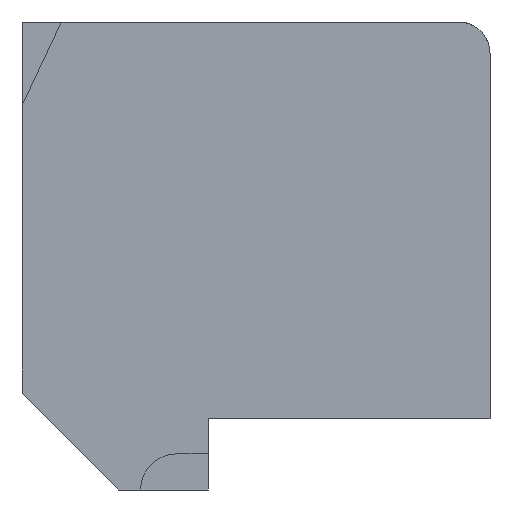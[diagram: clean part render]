
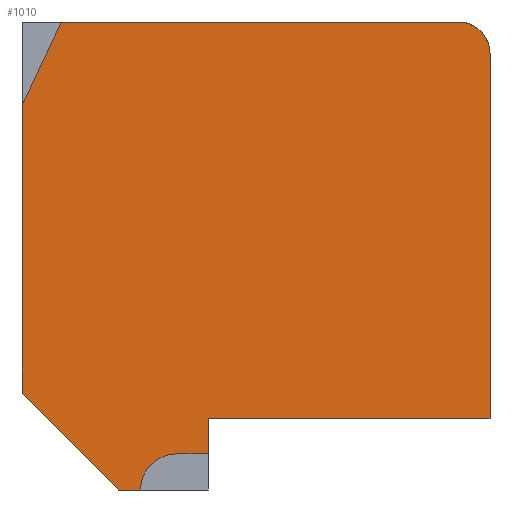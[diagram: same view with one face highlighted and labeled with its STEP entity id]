
A CAD part, front view. The second image highlights one B-rep face of the part: STEP entity #1010.
In plain terms, the highlighted planar face has unit normal (0, -1, 0).
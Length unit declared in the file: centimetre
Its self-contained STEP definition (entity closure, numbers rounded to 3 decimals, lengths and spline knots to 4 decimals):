
#2 = VECTOR ( 'NONE', #517, 100. ) ;
#34 = DIRECTION ( 'NONE',  ( -1., 0., 0. ) ) ;
#46 = VECTOR ( 'NONE', #926, 100. ) ;
#102 = ORIENTED_EDGE ( 'NONE', *, *, #1056, .F. ) ;
#107 = CARTESIAN_POINT ( 'NONE',  ( 0., 0., 1000. ) ) ;
#117 = VERTEX_POINT ( 'NONE', #146 ) ;
#120 = EDGE_CURVE ( 'NONE', #117, #290, #336, .T. ) ;
#121 = DIRECTION ( 'NONE',  ( 1., 0., 0. ) ) ;
#129 = CARTESIAN_POINT ( 'NONE',  ( 0., 0., 207.1566 ) ) ;
#146 = CARTESIAN_POINT ( 'NONE',  ( 1000., 0., 932.5069 ) ) ;
#147 = VERTEX_POINT ( 'NONE', #157 ) ;
#157 = CARTESIAN_POINT ( 'NONE',  ( 0., 0., 821.7049 ) ) ;
#166 = AXIS2_PLACEMENT_3D ( 'NONE', #349, #763, #459 ) ;
#176 = DIRECTION ( 'NONE',  ( 0., 0., 1. ) ) ;
#194 = VECTOR ( 'NONE', #121, 100. ) ;
#202 = DIRECTION ( 'NONE',  ( 1., 0., 0. ) ) ;
#208 = LINE ( 'NONE', #715, #194 ) ;
#217 = ORIENTED_EDGE ( 'NONE', *, *, #528, .F. ) ;
#249 = ORIENTED_EDGE ( 'NONE', *, *, #1022, .F. ) ;
#255 = PLANE ( 'NONE',  #1072 ) ;
#261 = ORIENTED_EDGE ( 'NONE', *, *, #292, .T. ) ;
#290 = VERTEX_POINT ( 'NONE', #291 ) ;
#291 = CARTESIAN_POINT ( 'NONE',  ( 932.5069, 0., 1000. ) ) ;
#292 = EDGE_CURVE ( 'NONE', #525, #1110, #793, .T. ) ;
#320 = VECTOR ( 'NONE', #34, 100. ) ;
#324 = CARTESIAN_POINT ( 'NONE',  ( 398.157, 0., 152.4031 ) ) ;
#336 = CIRCLE ( 'NONE', #166, 67.4931 ) ;
#349 = CARTESIAN_POINT ( 'NONE',  ( 932.5069, 0., 932.5069 ) ) ;
#351 = EDGE_CURVE ( 'NONE', #1064, #904, #471, .T. ) ;
#353 = LINE ( 'NONE', #657, #1234 ) ;
#415 = ORIENTED_EDGE ( 'NONE', *, *, #732, .F. ) ;
#448 = AXIS2_PLACEMENT_3D ( 'NONE', #1004, #603, #516 ) ;
#456 = EDGE_CURVE ( 'NONE', #147, #777, #714, .T. ) ;
#459 = DIRECTION ( 'NONE',  ( 0., 0., 1. ) ) ;
#471 = LINE ( 'NONE', #594, #829 ) ;
#475 = CARTESIAN_POINT ( 'NONE',  ( 330.6367, 0., 77.2732 ) ) ;
#476 = EDGE_CURVE ( 'NONE', #525, #840, #631, .T. ) ;
#487 = DIRECTION ( 'NONE',  ( 0., 0., -1. ) ) ;
#514 = EDGE_CURVE ( 'NONE', #840, #1023, #832, .T. ) ;
#516 = DIRECTION ( 'NONE',  ( 0., 0., -1. ) ) ;
#517 = DIRECTION ( 'NONE',  ( 0., 0., -1. ) ) ;
#525 = VERTEX_POINT ( 'NONE', #818 ) ;
#528 = EDGE_CURVE ( 'NONE', #1297, #290, #208, .T. ) ;
#572 = CARTESIAN_POINT ( 'NONE',  ( 0., 0., 1000. ) ) ;
#575 = DIRECTION ( 'NONE',  ( 1., 0., 0. ) ) ;
#576 = ORIENTED_EDGE ( 'NONE', *, *, #456, .T. ) ;
#594 = CARTESIAN_POINT ( 'NONE',  ( 0., 0., 0. ) ) ;
#603 = DIRECTION ( 'NONE',  ( 0., -1., 0. ) ) ;
#627 = LINE ( 'NONE', #129, #1155 ) ;
#631 = LINE ( 'NONE', #324, #46 ) ;
#657 = CARTESIAN_POINT ( 'NONE',  ( 0., 0., 821.7049 ) ) ;
#672 = CARTESIAN_POINT ( 'NONE',  ( 253.3635, 0., 0. ) ) ;
#687 = CARTESIAN_POINT ( 'NONE',  ( 207.1566, 0., 0. ) ) ;
#714 = LINE ( 'NONE', #107, #2 ) ;
#715 = CARTESIAN_POINT ( 'NONE',  ( 0., 0., 1000. ) ) ;
#717 = ORIENTED_EDGE ( 'NONE', *, *, #351, .T. ) ;
#732 = EDGE_CURVE ( 'NONE', #1023, #904, #1019, .T. ) ;
#763 = DIRECTION ( 'NONE',  ( 0., -1., 0. ) ) ;
#777 = VERTEX_POINT ( 'NONE', #1240 ) ;
#793 = LINE ( 'NONE', #1000, #1014 ) ;
#796 = CARTESIAN_POINT ( 'NONE',  ( 1000., 0., 152.4031 ) ) ;
#818 = CARTESIAN_POINT ( 'NONE',  ( 398.157, 0., 152.4031 ) ) ;
#829 = VECTOR ( 'NONE', #202, 100. ) ;
#832 = LINE ( 'NONE', #1213, #320 ) ;
#840 = VERTEX_POINT ( 'NONE', #1040 ) ;
#862 = DIRECTION ( 'NONE',  ( 0., 1., 0. ) ) ;
#882 = ORIENTED_EDGE ( 'NONE', *, *, #1247, .T. ) ;
#904 = VERTEX_POINT ( 'NONE', #672 ) ;
#926 = DIRECTION ( 'NONE',  ( 0., 0., -1. ) ) ;
#932 = DIRECTION ( 'NONE',  ( 0.707, 0., -0.707 ) ) ;
#936 = VECTOR ( 'NONE', #487, 100. ) ;
#981 = CARTESIAN_POINT ( 'NONE',  ( 83.6754, 0., 1000. ) ) ;
#987 = LINE ( 'NONE', #1002, #936 ) ;
#1000 = CARTESIAN_POINT ( 'NONE',  ( 398.157, 0., 152.4031 ) ) ;
#1002 = CARTESIAN_POINT ( 'NONE',  ( 1000., 0., 1000. ) ) ;
#1004 = CARTESIAN_POINT ( 'NONE',  ( 330.6367, 0., 0. ) ) ;
#1010 = ADVANCED_FACE ( 'NONE', ( #1089 ), #255, .F. ) ;
#1014 = VECTOR ( 'NONE', #575, 100. ) ;
#1019 = CIRCLE ( 'NONE', #448, 77.2732 ) ;
#1022 = EDGE_CURVE ( 'NONE', #147, #1297, #353, .T. ) ;
#1023 = VERTEX_POINT ( 'NONE', #475 ) ;
#1040 = CARTESIAN_POINT ( 'NONE',  ( 398.157, 0., 77.2732 ) ) ;
#1056 = EDGE_CURVE ( 'NONE', #117, #1110, #987, .T. ) ;
#1064 = VERTEX_POINT ( 'NONE', #687 ) ;
#1072 = AXIS2_PLACEMENT_3D ( 'NONE', #572, #862, #176 ) ;
#1089 = FACE_OUTER_BOUND ( 'NONE', #1139, .T. ) ;
#1110 = VERTEX_POINT ( 'NONE', #796 ) ;
#1139 = EDGE_LOOP ( 'NONE', ( #717, #415, #1280, #1236, #261, #102, #1157, #217, #249, #576, #882 ) ) ;
#1155 = VECTOR ( 'NONE', #932, 100. ) ;
#1157 = ORIENTED_EDGE ( 'NONE', *, *, #120, .T. ) ;
#1213 = CARTESIAN_POINT ( 'NONE',  ( 519.5682, 0., 77.2732 ) ) ;
#1234 = VECTOR ( 'NONE', #1283, 100. ) ;
#1236 = ORIENTED_EDGE ( 'NONE', *, *, #476, .F. ) ;
#1240 = CARTESIAN_POINT ( 'NONE',  ( 0., 0., 207.1566 ) ) ;
#1247 = EDGE_CURVE ( 'NONE', #777, #1064, #627, .T. ) ;
#1280 = ORIENTED_EDGE ( 'NONE', *, *, #514, .F. ) ;
#1283 = DIRECTION ( 'NONE',  ( 0.425, 0., 0.905 ) ) ;
#1297 = VERTEX_POINT ( 'NONE', #981 ) ;
